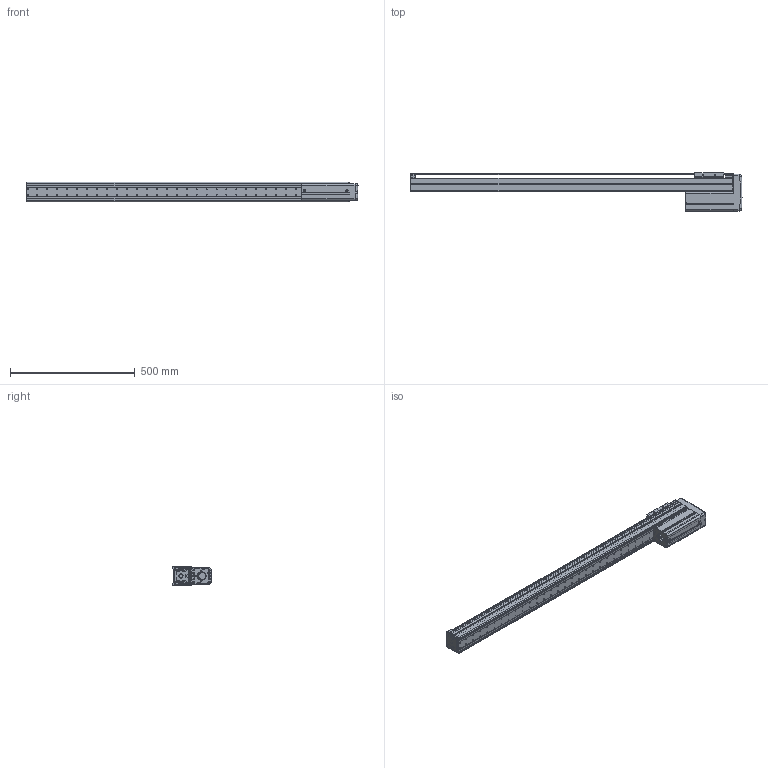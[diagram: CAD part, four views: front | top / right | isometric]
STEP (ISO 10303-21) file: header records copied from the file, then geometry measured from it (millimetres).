
FILE_DESCRIPTION((''),'2;1');
FILE_NAME('BE10E-UU-M_B-B0_IGS_PRT','2017-06-17T',(' '),(''),'PRO/ENGINEER BY PARAMETRIC TECHNOLOGY CORPORATION, 2015030','PRO/ENGINEER BY PARAMETRIC TECHNOLOGY CORPORATION, 2015030','');
FILE_SCHEMA(('CONFIG_CONTROL_DESIGN'));
Length unit declared in the file: millimetre
Products named in the file (1): BE10E-UU-M_B-B0_IGS_PRT
Bounding box: 1331.42 x 153 x 78 mm (x, y, z)
Volume: 1821859.4 mm3; surface area: 1232404.6 mm2
Topology: 2 solids, 141 shells, 1925 faces, 5222 edges, 3408 vertices
Faces by surface type: cylinder 961, plane 736, cone 81, torus 69, sphere 44, bspline 34
Entity records: 63415 total; most frequent: CARTESIAN_POINT 13629, DIRECTION 10788, ORIENTED_EDGE 9826, EDGE_CURVE 5182, AXIS2_PLACEMENT_3D 4064, VERTEX_POINT 3408, VECTOR 2660, LINE 2660
